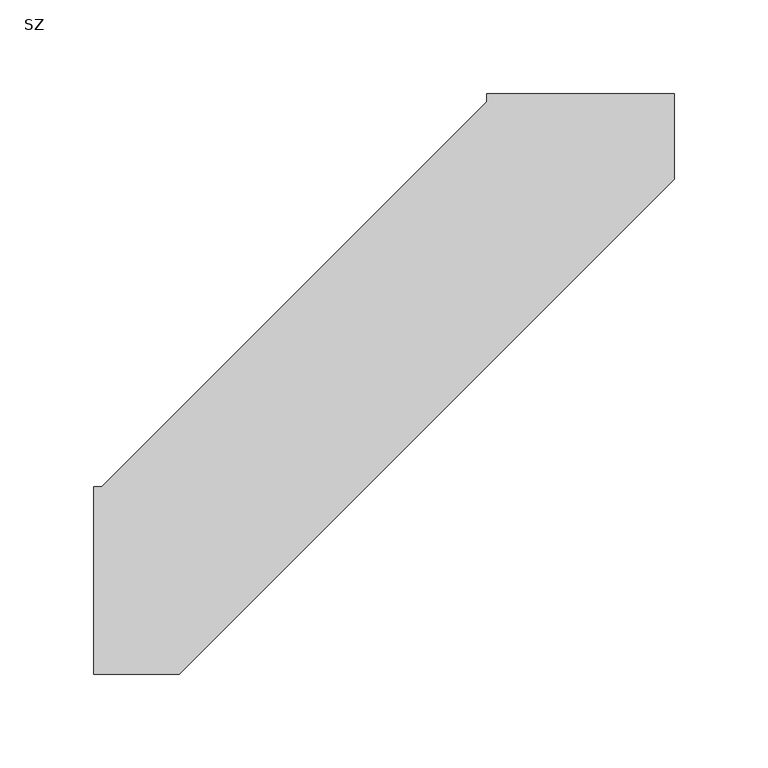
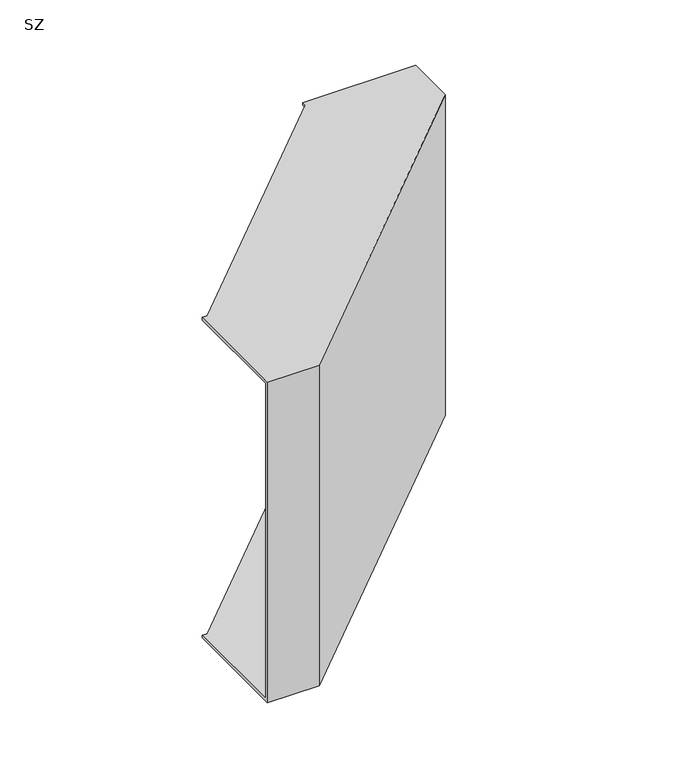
"""IFC4 building model written with IfcOpenShell, lengths in millimetres: cable carrier fitting geometry, IEK_Листовой_Поворот вертик внутр : SZ."""

import ifcopenshell
import ifcopenshell.guid

model = None  # the IFC model being written
_history = None  # IfcOwnerHistory: only IFC2X3 demands one
_inside = {}  # id of a spatial element -> (the spatial element, [elements in it])
_under = {}  # id of a project, library or spatial element -> (it, [spatial elements below it])
_declared = {}  # id of a project -> (the project, [libraries it declares])
_typed = {}  # id of a type object -> (the type object, [elements of that type])
_made_of = {}  # id of a material, layer set ... -> (it, [elements and type objects made of it])


def new_model(schema):
    """Start an empty IFC model of exactly this schema.

    Asked for "IFC4X3", IfcOpenShell would pick the latest addendum, in which some entities
    have other attributes; the version numbers below select the first issue.
    IFC2X3 requires an IfcOwnerHistory on every rooted entity: one is made here for all.
    """
    global model, _history
    if schema == "IFC4X3":
        model = ifcopenshell.file(schema_version=(4, 3, 0, 0))
    else:
        model = ifcopenshell.file(schema=schema)
    _inside.clear()
    _under.clear()
    _declared.clear()
    _typed.clear()
    _made_of.clear()
    _history = None
    if model.schema == "IFC2X3":
        org = make("IfcOrganization", Name="unknown")
        user = make(
            "IfcPersonAndOrganization",
            ThePerson=make("IfcPerson", FamilyName="unknown"),
            TheOrganization=org,
        )
        app = make(
            "IfcApplication",
            ApplicationDeveloper=org,
            Version="unknown",
            ApplicationFullName="unknown",
            ApplicationIdentifier="unknown",
        )
        _history = make(
            "IfcOwnerHistory",
            OwningUser=user,
            OwningApplication=app,
            ChangeAction="ADDED",
            CreationDate=0,
        )
    return model


def make(cls, **values):
    """One entity of the class cls with the attributes given. An attribute that is None is left unset."""
    return model.create_entity(
        cls, **{name: value for name, value in values.items() if value is not None}
    )


def rooted(cls, **values):
    """An entity with a GlobalId (a new one), such as an element, a storey or a relation."""
    return make(cls, GlobalId=ifcopenshell.guid.new(), OwnerHistory=_history, **values)


def si_unit(unit_type, name, prefix=None):
    """IfcSIUnit, for example si_unit("LENGTHUNIT", "METRE", prefix="MILLI")."""
    return make("IfcSIUnit", UnitType=unit_type, Prefix=prefix, Name=name)


def assignment(units):
    """IfcUnitAssignment: the units of a project."""
    return None if units is None else make("IfcUnitAssignment", Units=units)


def point(xyz):
    """IfcCartesianPoint."""
    return None if xyz is None else make("IfcCartesianPoint", Coordinates=xyz)


def direction(xyz):
    """IfcDirection."""
    return None if xyz is None else make("IfcDirection", DirectionRatios=xyz)


def frame(location, z_axis=None, x_axis=None):
    """IfcAxis2Placement3D, a coordinate frame: its origin and axes. An axis left out is left unset."""
    return make(
        "IfcAxis2Placement3D",
        Location=point(location),
        Axis=direction(z_axis),
        RefDirection=direction(x_axis),
    )


def origin():
    """The frame at (0, 0, 0) with its axes left unset."""
    return frame((0.0, 0.0, 0.0))


def place(relative_to, where):
    """IfcLocalPlacement: puts the frame where relative to a parent placement (None: the world)."""
    return make(
        "IfcLocalPlacement", PlacementRelTo=relative_to, RelativePlacement=where
    )


def context(
    kind, dimensions, precision=None, world=None, true_north=None, identifier=None
):
    """IfcGeometricRepresentationContext, for example the 3D "Model" context."""
    return make(
        "IfcGeometricRepresentationContext",
        ContextIdentifier=identifier,
        ContextType=kind,
        CoordinateSpaceDimension=dimensions,
        Precision=precision,
        WorldCoordinateSystem=world,
        TrueNorth=true_north,
    )


def project(units=None, contexts=None):
    """IfcProject with its units and contexts."""
    return rooted(
        "IfcProject",
        Name="project",
        RepresentationContexts=contexts,
        UnitsInContext=assignment(units),
    )


def spatial(cls, under=None, at=None, **own):
    """A site, building, storey or space (cls), placed at a placement, below another one or the project."""
    s = rooted(cls, ObjectPlacement=at, **own)
    if under is not None:
        _under.setdefault(under.id(), (under, []))[1].append(s)
    return s


def faces_of(points, faces, orient=None, outer=None):
    """IfcFace entities. A face is a list of loops; a loop is a list of indices into points, from 0.

    orient and outer hold one flag for each loop. By default every Orientation is true, the
    first loop of a face is its IfcFaceOuterBound and the others are IfcFaceBound.
    """
    made = []
    for i, loops in enumerate(faces):
        bounds = []
        for j, loop in enumerate(loops):
            is_outer = j == 0 if outer is None else outer[i][j]
            bounds.append(
                make(
                    "IfcFaceOuterBound" if is_outer else "IfcFaceBound",
                    Bound=make("IfcPolyLoop", Polygon=[points[k] for k in loop]),
                    Orientation=True if orient is None else orient[i][j],
                )
            )
        made.append(make("IfcFace", Bounds=bounds))
    return made


def faceted_brep(points, faces, orient=None, outer=None, voids=None):
    """IfcFacetedBrep: a solid bounded by flat faces; with voids (closed shells), ...WithVoids."""
    shared = [point(p) for p in points]
    hull = make("IfcClosedShell", CfsFaces=faces_of(shared, faces, orient, outer))
    if voids is None:
        return make("IfcFacetedBrep", Outer=hull)
    return make(
        "IfcFacetedBrepWithVoids",
        Outer=hull,
        Voids=[
            make(cls, CfsFaces=faces_of(shared, fs, o, b)) for cls, fs, o, b in voids
        ],
    )


def shape(context_of_items, identifier, shape_type, items):
    """IfcShapeRepresentation: the items that make up one representation, for example the "Body"."""
    return make(
        "IfcShapeRepresentation",
        ContextOfItems=context_of_items,
        RepresentationIdentifier=identifier,
        RepresentationType=shape_type,
        Items=items,
    )


def source(mapping_origin, context_of_items, identifier, shape_type, items):
    """IfcRepresentationMap: a shape defined once, which mapped items show again and again."""
    return make(
        "IfcRepresentationMap",
        MappingOrigin=mapping_origin,
        MappedRepresentation=shape(context_of_items, identifier, shape_type, items),
    )


def transform(
    local_origin,
    x_axis=None,
    y_axis=None,
    z_axis=None,
    scale=None,
    scale2=None,
    scale3=None,
    uniform=True,
):
    """IfcCartesianTransformationOperator3D, or its non-uniform kind. x_axis, y_axis, z_axis: its Axis1, 2, 3."""
    if uniform:
        return make(
            "IfcCartesianTransformationOperator3D",
            Axis1=direction(x_axis),
            Axis2=direction(y_axis),
            LocalOrigin=point(local_origin),
            Scale=scale,
            Axis3=direction(z_axis),
        )
    return make(
        "IfcCartesianTransformationOperator3DnonUniform",
        Axis1=direction(x_axis),
        Axis2=direction(y_axis),
        LocalOrigin=point(local_origin),
        Scale=scale,
        Axis3=direction(z_axis),
        Scale2=scale2,
        Scale3=scale3,
    )


def mapped(mapping_source, mapping_target):
    """IfcMappedItem: shows the shape of a source again, moved by a transform."""
    return make(
        "IfcMappedItem", MappingSource=mapping_source, MappingTarget=mapping_target
    )


def made_of(thing, what):
    """Note that an element or type object is made of a material, layer set ...; save() writes the relation."""
    if what is not None:
        _made_of.setdefault(what.id(), (what, []))[1].append(thing)
    return thing


def element(
    cls,
    number,
    at=None,
    inside=None,
    cuts=None,
    type_object=None,
    material=None,
    context=None,
    identifier="Body",
    shape_type=None,
    held_by="IfcProductDefinitionShape",
    body=None,
    shapes=None,
    **own,
):
    """One element of the class cls, such as IfcWall. Its Tag is "e" and its number.

    at: its placement. inside: the storey or other place that contains it. cuts: it is an
    opening in that element (IfcRelVoidsElement). A single representation is given by context,
    identifier, shape_type and body (its items); several are given by shapes. held_by: the class
    of the entity that holds the representations. save() writes the other relations.
    """
    e = rooted(cls, Tag="e%d" % number, ObjectPlacement=at, **own)
    if body is not None:
        shapes = [shape(context, identifier, shape_type, body)]
    if shapes is not None:
        e.Representation = make(held_by, Representations=shapes)
    if inside is not None:
        _inside.setdefault(inside.id(), (inside, []))[1].append(e)
    if cuts is not None:
        rooted(
            "IfcRelVoidsElement", RelatingBuildingElement=cuts, RelatedOpeningElement=e
        )
    if type_object is not None:
        _typed.setdefault(type_object.id(), (type_object, []))[1].append(e)
    return made_of(e, material)


def aggregate(whole, parts):
    """IfcRelAggregates: a whole, such as a stair, and the parts it consists of."""
    return rooted("IfcRelAggregates", RelatingObject=whole, RelatedObjects=parts)


def save(model, path):
    """Write the relations noted so far, then the file.

    IfcRelAggregates (storeys below a building ...), IfcRelContainedInSpatialStructure (elements
    in a storey), IfcRelDefinesByType, IfcRelAssociatesMaterial and IfcRelDeclares: one each for
    every whole, place, type object, material and project.
    """
    for whole, parts in _under.values():
        aggregate(whole, parts)
    for where, things in _inside.values():
        rooted(
            "IfcRelContainedInSpatialStructure",
            RelatedElements=things,
            RelatingStructure=where,
        )
    for kind, things in _typed.values():
        rooted("IfcRelDefinesByType", RelatedObjects=things, RelatingType=kind)
    for what, things in _made_of.values():
        rooted("IfcRelAssociatesMaterial", RelatedObjects=things, RelatingMaterial=what)
    for by, libraries in _declared.values():
        rooted("IfcRelDeclares", RelatingContext=by, RelatedDefinitions=libraries)
    model.write(path)


def sz_991a64d1(model_context):
    return source(origin(), model_context, "Body", "Brep", [
        faceted_brep([(-260.0, 50.0, 150.0), (-260.0, 50.0, 147.5), (-260.0, -47.5, 147.5), (-260.0, -47.5, -147.5), (-260.0, 50.0, -147.5), (-260.0, 50.0, -150.0), (-260.0, -50.0, -150.0), (-260.0, -50.0, 150.0), (-50.0, 260.0, 150.0), (50.0, 260.0, 150.0), (50.0, 260.0, -150.0), (-50.0, 260.0, -150.0), (-50.0, 260.0, -147.5), (47.5, 260.0, -147.5), (47.5, 260.0, 147.5), (-50.0, 260.0, 147.5), (-214.2893219, -50.0, 150.0), (50.0, 214.2893219, 150.0), (-50.0, 255.7106781, 150.0), (-255.7106781, 50.0, 150.0), (-214.2893219, -50.0, -150.0), (-255.7106781, 50.0, -150.0), (-50.0, 255.7106781, -150.0), (50.0, 214.2893219, -150.0), (-255.7106781, 50.0, -147.5), (-215.3248558, -47.5, -147.5), (47.5, 215.3248558, -147.5), (-50.0, 255.7106781, -147.5), (-215.3248558, -47.5, 147.5), (-255.7106781, 50.0, 147.5), (-50.0, 255.7106781, 147.5), (47.5, 215.3248558, 147.5)], [[[0, 1, 2, 3, 4, 5, 6, 7]], [[8, 9, 10, 11, 12, 13, 14, 15]], [[0, 7, 16, 17, 9, 8, 18, 19]], [[7, 6, 20, 16]], [[6, 5, 21, 22, 11, 10, 23, 20]], [[5, 4, 24, 21]], [[4, 3, 25, 26, 13, 12, 27, 24]], [[3, 2, 28, 25]], [[2, 1, 29, 30, 15, 14, 31, 28]], [[1, 0, 19, 29]], [[17, 23, 10, 9]], [[22, 27, 12, 11]], [[26, 31, 14, 13]], [[30, 18, 8, 15]], [[29, 19, 18, 30]], [[25, 28, 31, 26]], [[21, 24, 27, 22]], [[16, 20, 23, 17]]]),
    ])


if __name__ == "__main__":
    model = new_model("IFC4")
    model_context = context("Model", 3, world=origin())
    ifc_project = project(units=[si_unit("LENGTHUNIT", "METRE", prefix="MILLI")], contexts=[model_context])
    site = spatial("IfcSite", under=ifc_project)
    building = spatial("IfcBuilding", under=site)
    placement = place(None, origin())
    sz_shape = sz_991a64d1(model_context)
    element("IfcCableCarrierFitting", 1, ObjectType="IEK_Листовой_Поворот вертик внутр : SZ", at=placement, inside=building, context=model_context, shape_type="MappedRepresentation", body=[
        mapped(sz_shape, transform((0.0, 0.0, 0.0), x_axis=(1.0, 0.0, 0.0), y_axis=(0.0, 1.0, 0.0), z_axis=(0.0, 0.0, 1.0))),
    ])
    save(model, "model.ifc")
